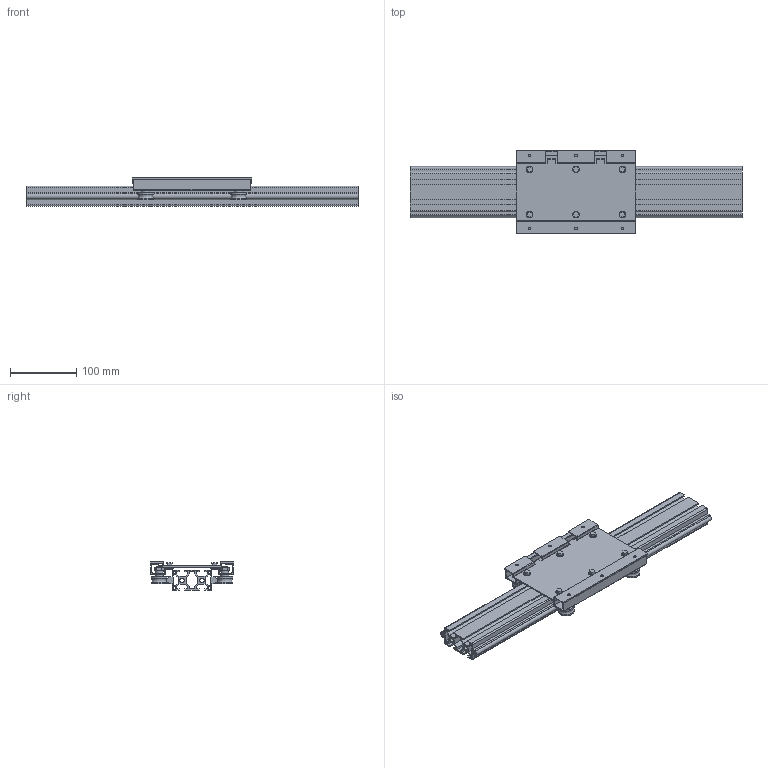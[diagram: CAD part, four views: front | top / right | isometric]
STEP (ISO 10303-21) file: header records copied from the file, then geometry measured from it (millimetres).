
FILE_DESCRIPTION((''),'2;1');
FILE_NAME('C:\Documents and Settings\土屋\My Documents\土屋移動用フォルダ\製品 (図面)\LSダウンロード用図面\新型キャリッジ\LS-W\step形式\LS6030BW.stp','2017-08-23T11:42:58',('y'),(''),'Autodesk Inventor 11','Autodesk Inventor 11','');
FILE_SCHEMA(('AUTOMOTIVE_DESIGN { 1 0 10303 214 1 1 1 1 }'));
Length unit declared in the file: millimetre
Products named in the file (3): LS6030BW; LS6030BWレール; LS6030BWキャリッジ
Assembly tree (2 placements, depth 2):
  LS6030BW
    LS6030BWレール
    LS6030BWキャリッジ
Bounding box: 500 x 126 x 43 mm (x, y, z)
Volume: 517453.8 mm3; surface area: 386080.4 mm2
Topology: 6 solids, 6 shells, 421 faces, 1074 edges, 694 vertices
Faces by surface type: plane 257, cylinder 90, cone 60, bspline 14
Full cylindrical faces by diameter (mm): 4.2 x4, 6.8 x2, 8 x10, 10 x6, 12 x4, 12.3 x4, 24 x8
Entity records: 12676 total; most frequent: CARTESIAN_POINT 2784, ORIENTED_EDGE 1992, DIRECTION 1984, EDGE_CURVE 996, VERTEX_POINT 680, AXIS2_PLACEMENT_3D 672, VECTOR 640, LINE 640
